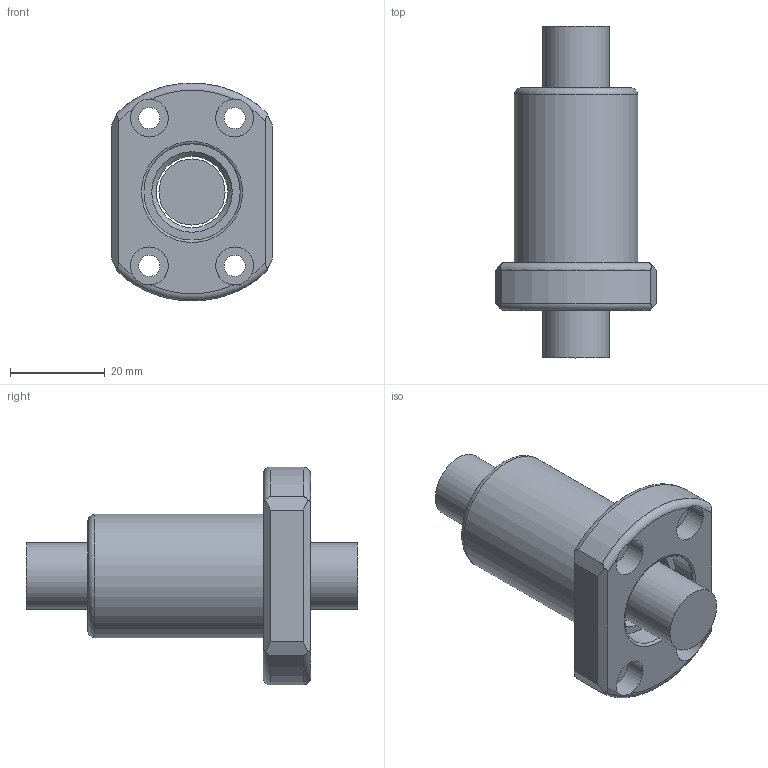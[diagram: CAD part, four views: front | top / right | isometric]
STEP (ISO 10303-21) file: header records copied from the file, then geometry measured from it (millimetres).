
FILE_DESCRIPTION(/* description */ (''),/* implementation_level */ '2;1');
FILE_NAME(/* name */ '1404T4D.prt.step',/* time_stamp */ '2008-12-05T09:32:39+08:00',/* author */ (''),/* organization */ (''),/* preprocessor_version */ 'ST-DEVELOPER v11',/* originating_system */ 'SIEMENS UGS NX 6.0',/* authorisation */ '');
FILE_SCHEMA (('AUTOMOTIVE_DESIGN { 1 0 10303 214 1 1 1 1 }'));
Length unit declared in the file: millimetre
Products named in the file (1): 1404T4D
Bounding box: 34 x 70 x 45.97 mm (x, y, z)
Volume: 32897.6 mm3; surface area: 12918.7 mm2
Topology: 2 solids, 2 shells, 45 faces, 113 edges, 75 vertices
Faces by surface type: plane 21, cylinder 15, torus 7, cone 2
Full cylindrical faces by diameter (mm): 4.5 x4, 8 x4, 13.95 x1, 15 x1, 20.3 x2, 26 x1
Entity records: 1474 total; most frequent: CARTESIAN_POINT 464, DIRECTION 202, ORIENTED_EDGE 174, AXIS2_PLACEMENT_3D 89, EDGE_CURVE 87, EDGE_LOOP 76, VERTEX_POINT 67, FACE_BOUND 58
